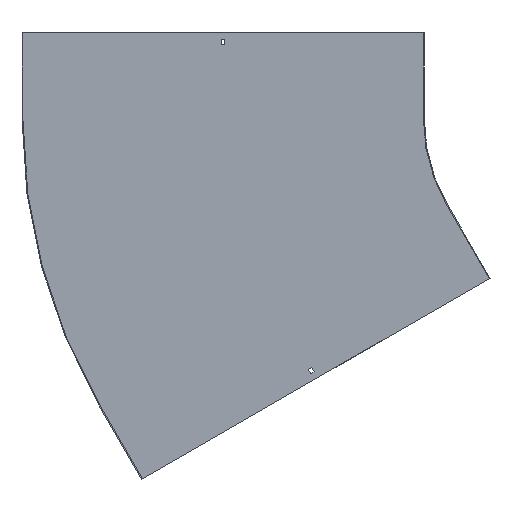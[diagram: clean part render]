
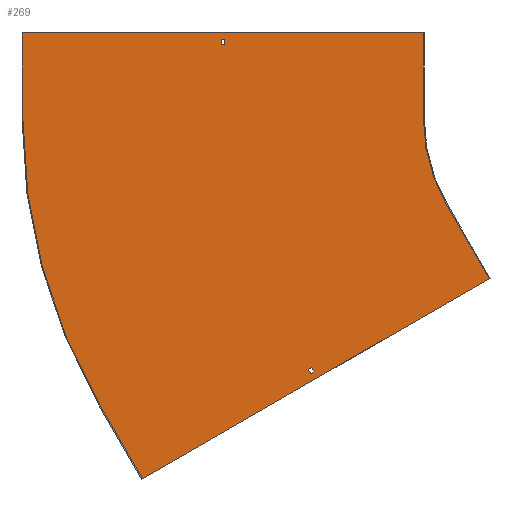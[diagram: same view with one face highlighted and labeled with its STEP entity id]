
A CAD part, front view. The second image highlights one B-rep face of the part: STEP entity #269.
In plain terms, the highlighted planar face has unit normal (0, -1, 0).
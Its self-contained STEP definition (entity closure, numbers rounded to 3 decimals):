
#2 = CARTESIAN_POINT ( 'NONE',  ( 64.5, -1.5, -111.717 ) ) ;
#8 = EDGE_LOOP ( 'NONE', ( #736, #232, #611, #276, #491, #299, #279, #536 ) ) ;
#11 = VECTOR ( 'NONE', #735, 1000. ) ;
#12 = VERTEX_POINT ( 'NONE', #495 ) ;
#18 = EDGE_LOOP ( 'NONE', ( #128, #219, #631, #810 ) ) ;
#44 = EDGE_CURVE ( 'NONE', #692, #531, #798, .T. ) ;
#45 = CARTESIAN_POINT ( 'NONE',  ( -259.808, -1.5, -150. ) ) ;
#46 = CARTESIAN_POINT ( 'NONE',  ( 0., -1.5, 138. ) ) ;
#51 = VERTEX_POINT ( 'NONE', #731 ) ;
#55 = CIRCLE ( 'NONE', #122, 300. ) ;
#59 = CARTESIAN_POINT ( 'NONE',  ( -300., -1.5, 150. ) ) ;
#66 = DIRECTION ( 'NONE',  ( 0., 0., -1. ) ) ;
#69 = DIRECTION ( 'NONE',  ( 0., 0., -1. ) ) ;
#76 = CARTESIAN_POINT ( 'NONE',  ( -1001.5, -1.5, 150. ) ) ;
#78 = CARTESIAN_POINT ( 'NONE',  ( -653.25, -1.5, 129. ) ) ;
#83 = PLANE ( 'NONE',  #204 ) ;
#88 = VERTEX_POINT ( 'NONE', #535 ) ;
#91 = ORIENTED_EDGE ( 'NONE', *, *, #656, .T. ) ;
#93 = DIRECTION ( 'NONE',  ( -0.866, 0., -0.5 ) ) ;
#102 = CARTESIAN_POINT ( 'NONE',  ( -791.025, -1.5, -629.904 ) ) ;
#103 = VECTOR ( 'NONE', #329, 1000. ) ;
#108 = DIRECTION ( 'NONE',  ( -1., 0., 0. ) ) ;
#109 = VECTOR ( 'NONE', #863, 1000. ) ;
#113 = LINE ( 'NONE', #596, #103 ) ;
#122 = AXIS2_PLACEMENT_3D ( 'NONE', #773, #593, #519 ) ;
#125 = EDGE_CURVE ( 'NONE', #402, #261, #347, .T. ) ;
#128 = ORIENTED_EDGE ( 'NONE', *, *, #282, .F. ) ;
#129 = LINE ( 'NONE', #200, #109 ) ;
#136 = EDGE_CURVE ( 'NONE', #554, #12, #424, .T. ) ;
#153 = VERTEX_POINT ( 'NONE', #676 ) ;
#174 = LINE ( 'NONE', #516, #496 ) ;
#184 = EDGE_CURVE ( 'NONE', #621, #300, #248, .T. ) ;
#195 = EDGE_CURVE ( 'NONE', #153, #621, #174, .T. ) ;
#196 = LINE ( 'NONE', #851, #498 ) ;
#200 = CARTESIAN_POINT ( 'NONE',  ( -560.102, -1.5, -323.375 ) ) ;
#204 = AXIS2_PLACEMENT_3D ( 'NONE', #606, #480, #66 ) ;
#207 = FACE_OUTER_BOUND ( 'NONE', #8, .T. ) ;
#219 = ORIENTED_EDGE ( 'NONE', *, *, #125, .F. ) ;
#232 = ORIENTED_EDGE ( 'NONE', *, *, #669, .F. ) ;
#234 = CARTESIAN_POINT ( 'NONE',  ( 0., -1.5, 0. ) ) ;
#245 = CARTESIAN_POINT ( 'NONE',  ( -1000., -1.5, 0. ) ) ;
#247 = CIRCLE ( 'NONE', #719, 1000. ) ;
#248 = LINE ( 'NONE', #695, #319 ) ;
#251 = DIRECTION ( 'NONE',  ( 0., 0., -1. ) ) ;
#261 = VERTEX_POINT ( 'NONE', #663 ) ;
#269 = ADVANCED_FACE ( 'NONE', ( #794, #207, #469 ), #83, .T. ) ;
#276 = ORIENTED_EDGE ( 'NONE', *, *, #184, .F. ) ;
#277 = DIRECTION ( 'NONE',  ( -0.866, 0., -0.5 ) ) ;
#279 = ORIENTED_EDGE ( 'NONE', *, *, #707, .F. ) ;
#282 = EDGE_CURVE ( 'NONE', #261, #554, #129, .T. ) ;
#299 = ORIENTED_EDGE ( 'NONE', *, *, #705, .F. ) ;
#300 = VERTEX_POINT ( 'NONE', #369 ) ;
#302 = VERTEX_POINT ( 'NONE', #78 ) ;
#319 = VECTOR ( 'NONE', #379, 1000. ) ;
#324 = DIRECTION ( 'NONE',  ( 0.5, 0., -0.866 ) ) ;
#326 = VERTEX_POINT ( 'NONE', #553 ) ;
#329 = DIRECTION ( 'NONE',  ( 0., 0., 1. ) ) ;
#332 = VECTOR ( 'NONE', #841, 1000. ) ;
#338 = LINE ( 'NONE', #765, #636 ) ;
#343 = CARTESIAN_POINT ( 'NONE',  ( 69., -1.5, -119.512 ) ) ;
#347 = LINE ( 'NONE', #343, #431 ) ;
#369 = CARTESIAN_POINT ( 'NONE',  ( -866.025, -1.5, -500. ) ) ;
#372 = EDGE_CURVE ( 'NONE', #51, #88, #700, .T. ) ;
#374 = VERTEX_POINT ( 'NONE', #520 ) ;
#377 = ORIENTED_EDGE ( 'NONE', *, *, #786, .T. ) ;
#379 = DIRECTION ( 'NONE',  ( -0.5, 0., 0.866 ) ) ;
#382 = CARTESIAN_POINT ( 'NONE',  ( -259.808, -1.5, -150. ) ) ;
#384 = CARTESIAN_POINT ( 'NONE',  ( -495.602, -1.5, -435.092 ) ) ;
#393 = DIRECTION ( 'NONE',  ( 0., 0., 1. ) ) ;
#396 = VECTOR ( 'NONE', #755, 1000. ) ;
#402 = VERTEX_POINT ( 'NONE', #820 ) ;
#424 = LINE ( 'NONE', #2, #847 ) ;
#431 = VECTOR ( 'NONE', #601, 1000. ) ;
#454 = VECTOR ( 'NONE', #69, 1000. ) ;
#458 = LINE ( 'NONE', #589, #332 ) ;
#464 = EDGE_CURVE ( 'NONE', #88, #326, #196, .T. ) ;
#469 = FACE_BOUND ( 'NONE', #529, .T. ) ;
#480 = DIRECTION ( 'NONE',  ( 0., -1., 0. ) ) ;
#491 = ORIENTED_EDGE ( 'NONE', *, *, #195, .F. ) ;
#494 = EDGE_CURVE ( 'NONE', #374, #692, #594, .T. ) ;
#495 = CARTESIAN_POINT ( 'NONE',  ( -501.231, -1.5, -438.342 ) ) ;
#496 = VECTOR ( 'NONE', #93, 1000. ) ;
#498 = VECTOR ( 'NONE', #713, 1000. ) ;
#501 = DIRECTION ( 'NONE',  ( 0., 1., 0. ) ) ;
#516 = CARTESIAN_POINT ( 'NONE',  ( -183.509, -1.5, -279.154 ) ) ;
#519 = DIRECTION ( 'NONE',  ( 0., 0., -1. ) ) ;
#520 = CARTESIAN_POINT ( 'NONE',  ( -1000., -1.5, 150. ) ) ;
#529 = EDGE_LOOP ( 'NONE', ( #603, #733, #91, #377 ) ) ;
#531 = VERTEX_POINT ( 'NONE', #539 ) ;
#535 = CARTESIAN_POINT ( 'NONE',  ( -646.75, -1.5, 138. ) ) ;
#536 = ORIENTED_EDGE ( 'NONE', *, *, #44, .F. ) ;
#539 = CARTESIAN_POINT ( 'NONE',  ( -300., -1.5, 0. ) ) ;
#553 = CARTESIAN_POINT ( 'NONE',  ( -646.75, -1.5, 129. ) ) ;
#554 = VERTEX_POINT ( 'NONE', #384 ) ;
#564 = VERTEX_POINT ( 'NONE', #245 ) ;
#574 = EDGE_CURVE ( 'NONE', #300, #564, #247, .T. ) ;
#587 = LINE ( 'NONE', #642, #637 ) ;
#589 = CARTESIAN_POINT ( 'NONE',  ( -565.731, -1.5, -326.625 ) ) ;
#593 = DIRECTION ( 'NONE',  ( 0., -1., 0. ) ) ;
#594 = LINE ( 'NONE', #76, #11 ) ;
#596 = CARTESIAN_POINT ( 'NONE',  ( -1000., -1.5, 0. ) ) ;
#601 = DIRECTION ( 'NONE',  ( 0.866, 0., 0.5 ) ) ;
#603 = ORIENTED_EDGE ( 'NONE', *, *, #372, .T. ) ;
#606 = CARTESIAN_POINT ( 'NONE',  ( 0., -1.5, 0. ) ) ;
#611 = ORIENTED_EDGE ( 'NONE', *, *, #574, .F. ) ;
#621 = VERTEX_POINT ( 'NONE', #102 ) ;
#631 = ORIENTED_EDGE ( 'NONE', *, *, #709, .F. ) ;
#636 = VECTOR ( 'NONE', #108, 1000. ) ;
#637 = VECTOR ( 'NONE', #393, 1000. ) ;
#642 = CARTESIAN_POINT ( 'NONE',  ( -653.25, -1.5, 0. ) ) ;
#646 = LINE ( 'NONE', #45, #772 ) ;
#656 = EDGE_CURVE ( 'NONE', #326, #302, #338, .T. ) ;
#663 = CARTESIAN_POINT ( 'NONE',  ( -491.102, -1.5, -442.887 ) ) ;
#669 = EDGE_CURVE ( 'NONE', #564, #374, #113, .T. ) ;
#676 = CARTESIAN_POINT ( 'NONE',  ( -184.808, -1.5, -279.904 ) ) ;
#692 = VERTEX_POINT ( 'NONE', #59 ) ;
#695 = CARTESIAN_POINT ( 'NONE',  ( -791.025, -1.5, -629.904 ) ) ;
#700 = LINE ( 'NONE', #46, #396 ) ;
#705 = EDGE_CURVE ( 'NONE', #812, #153, #646, .T. ) ;
#707 = EDGE_CURVE ( 'NONE', #531, #812, #55, .T. ) ;
#709 = EDGE_CURVE ( 'NONE', #12, #402, #458, .T. ) ;
#713 = DIRECTION ( 'NONE',  ( 0., 0., -1. ) ) ;
#719 = AXIS2_PLACEMENT_3D ( 'NONE', #234, #501, #251 ) ;
#731 = CARTESIAN_POINT ( 'NONE',  ( -653.25, -1.5, 138. ) ) ;
#733 = ORIENTED_EDGE ( 'NONE', *, *, #464, .T. ) ;
#735 = DIRECTION ( 'NONE',  ( 1., 0., 0. ) ) ;
#736 = ORIENTED_EDGE ( 'NONE', *, *, #494, .F. ) ;
#755 = DIRECTION ( 'NONE',  ( 1., 0., 0. ) ) ;
#765 = CARTESIAN_POINT ( 'NONE',  ( 0., -1.5, 129. ) ) ;
#772 = VECTOR ( 'NONE', #324, 1000. ) ;
#773 = CARTESIAN_POINT ( 'NONE',  ( 0., -1.5, 0. ) ) ;
#786 = EDGE_CURVE ( 'NONE', #302, #51, #587, .T. ) ;
#791 = CARTESIAN_POINT ( 'NONE',  ( -300., -1.5, 150. ) ) ;
#794 = FACE_BOUND ( 'NONE', #18, .T. ) ;
#798 = LINE ( 'NONE', #791, #454 ) ;
#810 = ORIENTED_EDGE ( 'NONE', *, *, #136, .F. ) ;
#812 = VERTEX_POINT ( 'NONE', #382 ) ;
#820 = CARTESIAN_POINT ( 'NONE',  ( -496.731, -1.5, -446.137 ) ) ;
#841 = DIRECTION ( 'NONE',  ( 0.5, 0., -0.866 ) ) ;
#847 = VECTOR ( 'NONE', #277, 1000. ) ;
#851 = CARTESIAN_POINT ( 'NONE',  ( -646.75, -1.5, 0. ) ) ;
#863 = DIRECTION ( 'NONE',  ( -0.5, 0., 0.866 ) ) ;
